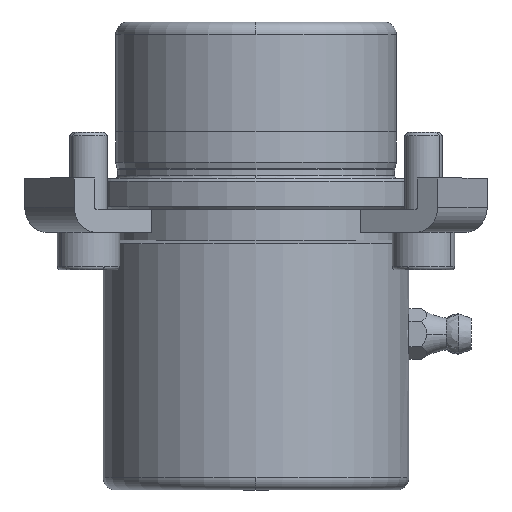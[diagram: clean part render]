
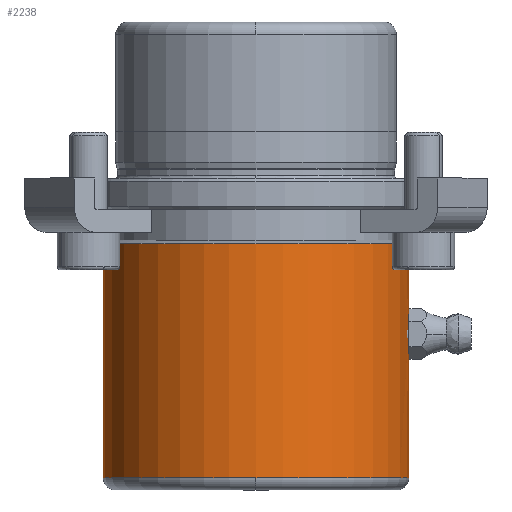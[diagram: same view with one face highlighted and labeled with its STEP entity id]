
A CAD part, front view. The second image highlights one B-rep face of the part: STEP entity #2238.
In plain terms, the highlighted cylindrical face has radius 24.5 mm (diameter 49 mm), a partial arc.
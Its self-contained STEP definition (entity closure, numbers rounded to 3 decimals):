
#604=CARTESIAN_POINT('',(0.,-24.5,-48.));
#605=VERTEX_POINT('',#604);
#613=CARTESIAN_POINT('',(-24.5,0.,-48.0));
#614=VERTEX_POINT('',#613);
#615=CARTESIAN_POINT('',(0.0,0.,-48.0));
#616=DIRECTION('',(0.0,0.0,-1.0));
#617=DIRECTION('',(1.0,0.0,0.0));
#618=AXIS2_PLACEMENT_3D('',#615,#616,#617);
#619=CIRCLE('',#618,24.5);
#620=EDGE_CURVE('',#605,#614,#619,.T.);
#637=CARTESIAN_POINT('',(24.5,0.,-48.0));
#638=VERTEX_POINT('',#637);
#639=CARTESIAN_POINT('',(24.5,0.,-27.5));
#640=VERTEX_POINT('',#639);
#641=CARTESIAN_POINT('',(24.5,0.,-48.0));
#642=DIRECTION('',(0.0,0.0,1.0));
#643=VECTOR('',#642,20.5);
#644=LINE('',#641,#643);
#645=EDGE_CURVE('',#638,#640,#644,.T.);
#655=CARTESIAN_POINT('',(-24.5,0.,-10.5));
#656=VERTEX_POINT('',#655);
#657=CARTESIAN_POINT('',(-24.5,0.,-48.0));
#658=DIRECTION('',(0.0,0.0,1.0));
#659=VECTOR('',#658,37.5);
#660=LINE('',#657,#659);
#661=EDGE_CURVE('',#614,#656,#660,.T.);
#663=CARTESIAN_POINT('',(24.5,0.,-10.5));
#664=VERTEX_POINT('',#663);
#672=CARTESIAN_POINT('',(24.5,0.,-22.5));
#673=VERTEX_POINT('',#672);
#674=CARTESIAN_POINT('',(24.5,0.,-22.5));
#675=DIRECTION('',(0.0,0.0,1.0));
#676=VECTOR('',#675,12.0);
#677=LINE('',#674,#676);
#678=EDGE_CURVE('',#673,#664,#677,.T.);
#1577=CARTESIAN_POINT('',(24.372,-2.5,-25.0));
#1578=VERTEX_POINT('',#1577);
#1579=CARTESIAN_POINT('',(24.372,-2.5,-25.0));
#1580=CARTESIAN_POINT('',(24.372,-2.5,-24.843));
#1581=CARTESIAN_POINT('',(24.374,-2.485,-24.681));
#1582=CARTESIAN_POINT('',(24.38,-2.422,-24.358));
#1583=CARTESIAN_POINT('',(24.385,-2.373,-24.197));
#1584=CARTESIAN_POINT('',(24.397,-2.246,-23.889));
#1585=CARTESIAN_POINT('',(24.404,-2.166,-23.741));
#1586=CARTESIAN_POINT('',(24.42,-1.983,-23.468));
#1587=CARTESIAN_POINT('',(24.428,-1.879,-23.343));
#1588=CARTESIAN_POINT('',(24.444,-1.657,-23.121));
#1589=CARTESIAN_POINT('',(24.452,-1.532,-23.017));
#1590=CARTESIAN_POINT('',(24.468,-1.259,-22.834));
#1591=CARTESIAN_POINT('',(24.475,-1.111,-22.754));
#1592=CARTESIAN_POINT('',(24.487,-0.803,-22.627));
#1593=CARTESIAN_POINT('',(24.492,-0.642,-22.578));
#1594=CARTESIAN_POINT('',(24.498,-0.319,-22.515));
#1595=CARTESIAN_POINT('',(24.5,-0.157,-22.5));
#1596=CARTESIAN_POINT('',(24.5,0.,-22.5));
#1597=B_SPLINE_CURVE_WITH_KNOTS('',3,(#1579,#1580,#1581,#1582,#1583,#1584,#1585,#1586,#1587,#1588,#1589,#1590,#1591,#1592,#1593,#1594,#1595,#1596),.UNSPECIFIED.,.F.,.U.,(4,2,2,2,2,2,2,2,4),(0.0,0.471,0.942,1.414,1.885,2.356,2.827,3.298,3.77),.UNSPECIFIED.);
#1598=EDGE_CURVE('',#1578,#673,#1597,.T.);
#1600=CARTESIAN_POINT('',(24.5,0.,-27.5));
#1601=CARTESIAN_POINT('',(24.5,-0.157,-27.5));
#1602=CARTESIAN_POINT('',(24.498,-0.319,-27.485));
#1603=CARTESIAN_POINT('',(24.492,-0.642,-27.422));
#1604=CARTESIAN_POINT('',(24.487,-0.803,-27.373));
#1605=CARTESIAN_POINT('',(24.475,-1.111,-27.246));
#1606=CARTESIAN_POINT('',(24.468,-1.259,-27.166));
#1607=CARTESIAN_POINT('',(24.452,-1.532,-26.983));
#1608=CARTESIAN_POINT('',(24.444,-1.657,-26.879));
#1609=CARTESIAN_POINT('',(24.428,-1.879,-26.657));
#1610=CARTESIAN_POINT('',(24.42,-1.983,-26.532));
#1611=CARTESIAN_POINT('',(24.404,-2.166,-26.259));
#1612=CARTESIAN_POINT('',(24.397,-2.246,-26.111));
#1613=CARTESIAN_POINT('',(24.385,-2.373,-25.803));
#1614=CARTESIAN_POINT('',(24.38,-2.422,-25.642));
#1615=CARTESIAN_POINT('',(24.374,-2.485,-25.319));
#1616=CARTESIAN_POINT('',(24.372,-2.5,-25.157));
#1617=CARTESIAN_POINT('',(24.372,-2.5,-25.0));
#1618=B_SPLINE_CURVE_WITH_KNOTS('',3,(#1600,#1601,#1602,#1603,#1604,#1605,#1606,#1607,#1608,#1609,#1610,#1611,#1612,#1613,#1614,#1615,#1616,#1617),.UNSPECIFIED.,.F.,.U.,(4,2,2,2,2,2,2,2,4),(11.309,11.78,12.251,12.723,13.194,13.665,14.136,14.608,15.079),.UNSPECIFIED.);
#1619=EDGE_CURVE('',#640,#1578,#1618,.T.);
#2207=CARTESIAN_POINT('',(0.0,0.,-10.5));
#2208=DIRECTION('',(0.0,0.0,-1.0));
#2209=DIRECTION('',(1.0,0.0,0.0));
#2210=AXIS2_PLACEMENT_3D('',#2207,#2208,#2209);
#2211=CIRCLE('',#2210,24.5);
#2212=EDGE_CURVE('',#664,#656,#2211,.T.);
#2217=CARTESIAN_POINT('',(0.0,0.,-29.25));
#2218=DIRECTION('',(0.0,0.,-1.0));
#2219=DIRECTION('',(1.0,0.0,0.0));
#2220=AXIS2_PLACEMENT_3D('',#2217,#2218,#2219);
#2221=CYLINDRICAL_SURFACE('',#2220,24.5);
#2222=ORIENTED_EDGE('',*,*,#645,.T.);
#2223=ORIENTED_EDGE('',*,*,#1619,.T.);
#2224=ORIENTED_EDGE('',*,*,#1598,.T.);
#2225=ORIENTED_EDGE('',*,*,#678,.T.);
#2226=ORIENTED_EDGE('',*,*,#2212,.T.);
#2227=ORIENTED_EDGE('',*,*,#661,.F.);
#2228=ORIENTED_EDGE('',*,*,#620,.F.);
#2229=CARTESIAN_POINT('',(0.0,0.,-48.0));
#2230=DIRECTION('',(0.0,0.0,-1.0));
#2231=DIRECTION('',(1.0,0.0,0.0));
#2232=AXIS2_PLACEMENT_3D('',#2229,#2230,#2231);
#2233=CIRCLE('',#2232,24.5);
#2234=EDGE_CURVE('',#638,#605,#2233,.T.);
#2235=ORIENTED_EDGE('',*,*,#2234,.F.);
#2236=EDGE_LOOP('',(#2222,#2223,#2224,#2225,#2226,#2227,#2228,#2235));
#2237=FACE_OUTER_BOUND('',#2236,.T.);
#2238=ADVANCED_FACE('',(#2237),#2221,.T.);
